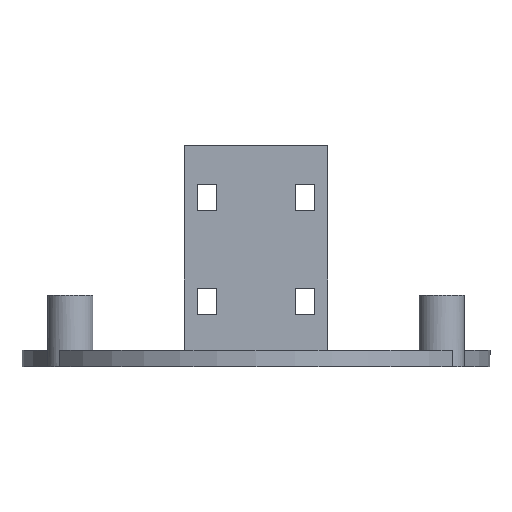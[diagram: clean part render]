
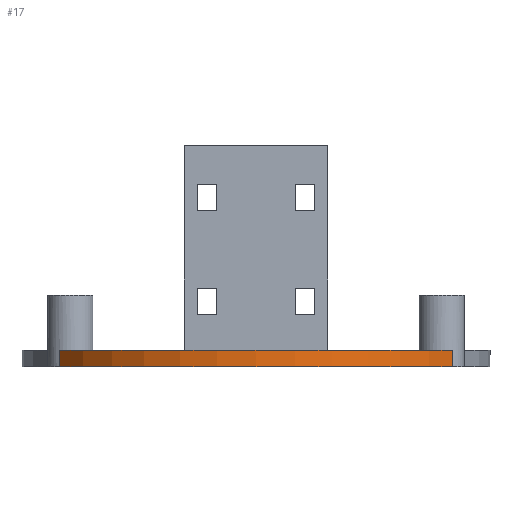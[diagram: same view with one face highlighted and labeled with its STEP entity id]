
A CAD part, front view. The second image highlights one B-rep face of the part: STEP entity #17.
In plain terms, the highlighted cylindrical face has radius 36 mm (diameter 72 mm), a partial arc.
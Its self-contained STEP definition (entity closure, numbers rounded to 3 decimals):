
#17 = ADVANCED_FACE('',(#18),#33,.T.);
#18 = FACE_BOUND('',#19,.F.);
#19 = EDGE_LOOP('',(#20,#56,#82,#115));
#20 = ORIENTED_EDGE('',*,*,#21,.F.);
#21 = EDGE_CURVE('',#22,#24,#26,.T.);
#22 = VERTEX_POINT('',#23);
#23 = CARTESIAN_POINT('',(-30.193,-19.605,0.));
#24 = VERTEX_POINT('',#25);
#25 = CARTESIAN_POINT('',(30.193,-19.605,0.));
#26 = SURFACE_CURVE('',#27,(#32,#44),.PCURVE_S1.);
#27 = CIRCLE('',#28,36.);
#28 = AXIS2_PLACEMENT_3D('',#29,#30,#31);
#29 = CARTESIAN_POINT('',(0.,0.,0.));
#30 = DIRECTION('',(0.,0.,1.));
#31 = DIRECTION('',(-0.839,-0.545,0.));
#32 = PCURVE('',#33,#38);
#33 = CYLINDRICAL_SURFACE('',#34,36.);
#34 = AXIS2_PLACEMENT_3D('',#35,#36,#37);
#35 = CARTESIAN_POINT('',(0.,0.,0.));
#36 = DIRECTION('',(-0.,-0.,-1.));
#37 = DIRECTION('',(1.,0.,0.));
#38 = DEFINITIONAL_REPRESENTATION('',(#39),#43);
#39 = LINE('',#40,#41);
#40 = CARTESIAN_POINT('',(-3.718,0.));
#41 = VECTOR('',#42,1.);
#42 = DIRECTION('',(-1.,0.));
#43 = ( GEOMETRIC_REPRESENTATION_CONTEXT(2) 
PARAMETRIC_REPRESENTATION_CONTEXT() REPRESENTATION_CONTEXT('2D SPACE',''
  ) );
#44 = PCURVE('',#45,#50);
#45 = PLANE('',#46);
#46 = AXIS2_PLACEMENT_3D('',#47,#48,#49);
#47 = CARTESIAN_POINT('',(0.,0.,0.));
#48 = DIRECTION('',(0.,0.,1.));
#49 = DIRECTION('',(1.,0.,-0.));
#50 = DEFINITIONAL_REPRESENTATION('',(#51),#55);
#51 = CIRCLE('',#52,36.);
#52 = AXIS2_PLACEMENT_2D('',#53,#54);
#53 = CARTESIAN_POINT('',(0.,0.));
#54 = DIRECTION('',(-0.839,-0.545));
#55 = ( GEOMETRIC_REPRESENTATION_CONTEXT(2) 
PARAMETRIC_REPRESENTATION_CONTEXT() REPRESENTATION_CONTEXT('2D SPACE',''
  ) );
#56 = ORIENTED_EDGE('',*,*,#57,.F.);
#57 = EDGE_CURVE('',#58,#22,#60,.T.);
#58 = VERTEX_POINT('',#59);
#59 = CARTESIAN_POINT('',(-30.193,-19.605,2.5));
#60 = SURFACE_CURVE('',#61,(#65,#71),.PCURVE_S1.);
#61 = LINE('',#62,#63);
#62 = CARTESIAN_POINT('',(-30.193,-19.605,0.));
#63 = VECTOR('',#64,1.);
#64 = DIRECTION('',(-0.,-0.,-1.));
#65 = PCURVE('',#33,#66);
#66 = DEFINITIONAL_REPRESENTATION('',(#67),#70);
#67 = B_SPLINE_CURVE_WITH_KNOTS('',1,(#68,#69),.UNSPECIFIED.,.F.,.F.,(2,
    2),(-2.5,0.),.PIECEWISE_BEZIER_KNOTS.);
#68 = CARTESIAN_POINT('',(-3.718,-2.5));
#69 = CARTESIAN_POINT('',(-3.718,0.));
#70 = ( GEOMETRIC_REPRESENTATION_CONTEXT(2) 
PARAMETRIC_REPRESENTATION_CONTEXT() REPRESENTATION_CONTEXT('2D SPACE',''
  ) );
#71 = PCURVE('',#72,#77);
#72 = CYLINDRICAL_SURFACE('',#73,3.5);
#73 = AXIS2_PLACEMENT_3D('',#74,#75,#76);
#74 = CARTESIAN_POINT('',(-28.579,-16.5,0.));
#75 = DIRECTION('',(-0.,-0.,-1.));
#76 = DIRECTION('',(1.,0.,0.));
#77 = DEFINITIONAL_REPRESENTATION('',(#78),#81);
#78 = B_SPLINE_CURVE_WITH_KNOTS('',1,(#79,#80),.UNSPECIFIED.,.F.,.F.,(2,
    2),(-2.5,0.),.PIECEWISE_BEZIER_KNOTS.);
#79 = CARTESIAN_POINT('',(-4.233,-2.5));
#80 = CARTESIAN_POINT('',(-4.233,0.));
#81 = ( GEOMETRIC_REPRESENTATION_CONTEXT(2) 
PARAMETRIC_REPRESENTATION_CONTEXT() REPRESENTATION_CONTEXT('2D SPACE',''
  ) );
#82 = ORIENTED_EDGE('',*,*,#83,.F.);
#83 = EDGE_CURVE('',#84,#58,#86,.T.);
#84 = VERTEX_POINT('',#85);
#85 = CARTESIAN_POINT('',(30.193,-19.605,2.5));
#86 = SURFACE_CURVE('',#87,(#92,#99),.PCURVE_S1.);
#87 = CIRCLE('',#88,36.);
#88 = AXIS2_PLACEMENT_3D('',#89,#90,#91);
#89 = CARTESIAN_POINT('',(0.,0.,2.5));
#90 = DIRECTION('',(0.,0.,-1.));
#91 = DIRECTION('',(0.052,0.999,0.));
#92 = PCURVE('',#33,#93);
#93 = DEFINITIONAL_REPRESENTATION('',(#94),#98);
#94 = LINE('',#95,#96);
#95 = CARTESIAN_POINT('',(-7.802,-2.5));
#96 = VECTOR('',#97,1.);
#97 = DIRECTION('',(1.,-0.));
#98 = ( GEOMETRIC_REPRESENTATION_CONTEXT(2) 
PARAMETRIC_REPRESENTATION_CONTEXT() REPRESENTATION_CONTEXT('2D SPACE',''
  ) );
#99 = PCURVE('',#100,#105);
#100 = PLANE('',#101);
#101 = AXIS2_PLACEMENT_3D('',#102,#103,#104);
#102 = CARTESIAN_POINT('',(0.,0.,2.5));
#103 = DIRECTION('',(0.,0.,1.));
#104 = DIRECTION('',(1.,0.,-0.));
#105 = DEFINITIONAL_REPRESENTATION('',(#106),#114);
#106 = ( BOUNDED_CURVE() B_SPLINE_CURVE(2,(#107,#108,#109,#110,#111,#112
,#113),.UNSPECIFIED.,.T.,.F.) B_SPLINE_CURVE_WITH_KNOTS((1,2,2,2,2,1),(
    -2.094,0.,2.094,4.189,6.283,
8.378),.UNSPECIFIED.) CURVE() GEOMETRIC_REPRESENTATION_ITEM() 
RATIONAL_B_SPLINE_CURVE((1.,0.5,1.,0.5,1.,0.5,1.)) REPRESENTATION_ITEM(
  '') );
#107 = CARTESIAN_POINT('',(1.882,35.951));
#108 = CARTESIAN_POINT('',(64.151,32.691));
#109 = CARTESIAN_POINT('',(30.193,-19.605));
#110 = CARTESIAN_POINT('',(-3.765,-71.902));
#111 = CARTESIAN_POINT('',(-32.075,-16.345));
#112 = CARTESIAN_POINT('',(-60.386,39.211));
#113 = CARTESIAN_POINT('',(1.882,35.951));
#114 = ( GEOMETRIC_REPRESENTATION_CONTEXT(2) 
PARAMETRIC_REPRESENTATION_CONTEXT() REPRESENTATION_CONTEXT('2D SPACE',''
  ) );
#115 = ORIENTED_EDGE('',*,*,#116,.T.);
#116 = EDGE_CURVE('',#84,#24,#117,.T.);
#117 = SURFACE_CURVE('',#118,(#122,#128),.PCURVE_S1.);
#118 = LINE('',#119,#120);
#119 = CARTESIAN_POINT('',(30.193,-19.605,0.));
#120 = VECTOR('',#121,1.);
#121 = DIRECTION('',(-0.,-0.,-1.));
#122 = PCURVE('',#33,#123);
#123 = DEFINITIONAL_REPRESENTATION('',(#124),#127);
#124 = B_SPLINE_CURVE_WITH_KNOTS('',1,(#125,#126),.UNSPECIFIED.,.F.,.F.,
  (2,2),(-2.5,0.),.PIECEWISE_BEZIER_KNOTS.);
#125 = CARTESIAN_POINT('',(-5.707,-2.5));
#126 = CARTESIAN_POINT('',(-5.707,0.));
#127 = ( GEOMETRIC_REPRESENTATION_CONTEXT(2) 
PARAMETRIC_REPRESENTATION_CONTEXT() REPRESENTATION_CONTEXT('2D SPACE',''
  ) );
#128 = PCURVE('',#129,#134);
#129 = CYLINDRICAL_SURFACE('',#130,3.5);
#130 = AXIS2_PLACEMENT_3D('',#131,#132,#133);
#131 = CARTESIAN_POINT('',(28.579,-16.5,0.));
#132 = DIRECTION('',(-0.,-0.,-1.));
#133 = DIRECTION('',(1.,0.,0.));
#134 = DEFINITIONAL_REPRESENTATION('',(#135),#138);
#135 = B_SPLINE_CURVE_WITH_KNOTS('',1,(#136,#137),.UNSPECIFIED.,.F.,.F.,
  (2,2),(-2.5,0.),.PIECEWISE_BEZIER_KNOTS.);
#136 = CARTESIAN_POINT('',(-5.192,-2.5));
#137 = CARTESIAN_POINT('',(-5.192,0.));
#138 = ( GEOMETRIC_REPRESENTATION_CONTEXT(2) 
PARAMETRIC_REPRESENTATION_CONTEXT() REPRESENTATION_CONTEXT('2D SPACE',''
  ) );
